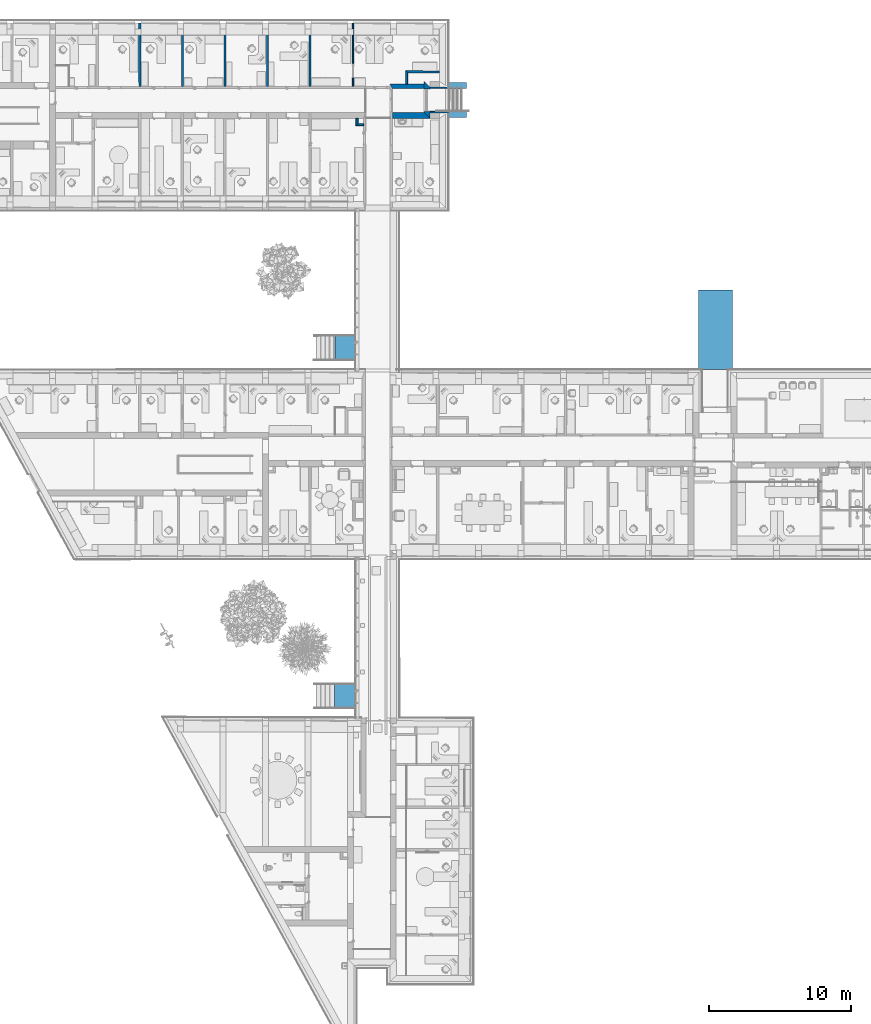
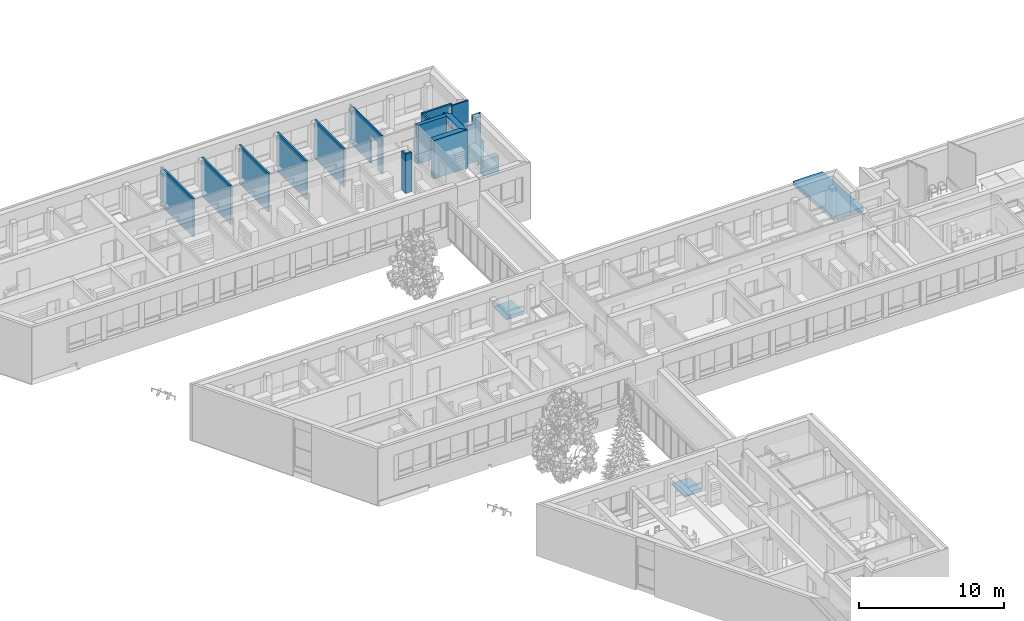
# One storey, part 32 of 194: 17 walls, 2 stairs, 1 ramp, 2 openings.
"""IFC2X3 building model written with IfcOpenShell, lengths in millimetres."""

from ifc_helpers import new_model, entity, si_unit, converted_unit, derived_unit, money_unit, direction, frame, origin_with_axes, origin_2d_with_axis, place, context, subcontext, project, spatial, polyline, rectangle, outline, extrude, boolean, faceted_brep, material, layer, layer_set, layer_usage, type_object, element, save


model = new_model("IFC2X3")

# Units and contexts
model_context = context("Model", 3, precision=1e-05, world=origin_with_axes(), true_north=direction((0.0, 1.0)))
body_context = subcontext(model_context, "Body", "Model", "MODEL_VIEW")
ifc_project = project(units=[si_unit("LENGTHUNIT", "METRE", prefix="MILLI"), si_unit("AREAUNIT", "SQUARE_METRE"), si_unit("VOLUMEUNIT", "CUBIC_METRE"), converted_unit("PLANEANGLEUNIT", "DEGREE", entity("IfcPlaneAngleMeasure", 0.0174532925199), si_unit("PLANEANGLEUNIT", "RADIAN"), dimensions=[0, 0, 0, 0, 0, 0, 0]), si_unit("SOLIDANGLEUNIT", "STERADIAN"), money_unit("EUR"), converted_unit("TIMEUNIT", "Year", entity("IfcTimeMeasure", 31556926.0), si_unit("TIMEUNIT", "SECOND"), dimensions=[0, 0, 1, 0, 0, 0, 0]), si_unit("MASSUNIT", "GRAM", prefix="KILO"), si_unit("THERMODYNAMICTEMPERATUREUNIT", "DEGREE_CELSIUS"), si_unit("LUMINOUSINTENSITYUNIT", "LUMEN"), si_unit("ENERGYUNIT", "JOULE", prefix="MEGA"), derived_unit("THERMALCONDUCTANCEUNIT", [(si_unit("POWERUNIT", "WATT"), 1), (si_unit("LENGTHUNIT", "METRE"), -1), (si_unit("THERMODYNAMICTEMPERATUREUNIT", "KELVIN"), -1)]), derived_unit("SPECIFICHEATCAPACITYUNIT", [(si_unit("ENERGYUNIT", "JOULE"), 1), (si_unit("MASSUNIT", "GRAM", prefix="KILO"), -1), (si_unit("THERMODYNAMICTEMPERATUREUNIT", "KELVIN"), -1)]), derived_unit("MASSDENSITYUNIT", [(si_unit("MASSUNIT", "GRAM", prefix="KILO"), 1), (si_unit("VOLUMEUNIT", "CUBIC_METRE"), -1)])], contexts=[model_context])

# Site, building, storey
site_placement = place(None, origin_with_axes())
site = spatial("IfcSite", under=ifc_project, at=site_placement, Name="Site", CompositionType="ELEMENT")
building_placement = place(site_placement, origin_with_axes())
building = spatial("IfcBuilding", under=site, at=building_placement, Name="Building", CompositionType="ELEMENT")
storey_placement = place(building_placement, frame((0.0, 0.0, 3000.0), z_axis=(0.0, 0.0, 1.0), x_axis=(1.0, 0.0, 0.0)))
storey = spatial("IfcBuildingStorey", under=building, at=storey_placement, Name="2 KORRUS", CompositionType="ELEMENT", Elevation=3000.0)

# Walls
ifc_material_1 = material(Name="Kivi -Ol.Olev Konstruktsioon")
ifc_layer_1 = layer(ifc_material_1, 150.0, ventilated="UNKNOWN")
ifc_layer_set_1 = layer_set([ifc_layer_1], Name="ol.olev ss 150")
ifc_layer_usage_1 = layer_usage(ifc_layer_set_1, "AXIS2", "NEGATIVE", 0.0)
wall_type_1 = type_object("IfcWallType", Name="SW - 022", PredefinedType="NOTDEFINED")
wall_1_placement = place(storey_placement, frame((22160.0036012, 71918.4645055, 0.0), z_axis=(0.0, 0.0, 1.0), x_axis=(0.000614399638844, -0.999999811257, 0.0)))
element("IfcWallStandardCase", 1, at=wall_1_placement, inside=storey, type_object=wall_type_1, material=ifc_layer_usage_1, Name="ol.olev ss 150", context=body_context, shape_type="SweptSolid", body=[
    extrude(outline(polyline([(0.0, -150.0), (4453.54102514, -150.0), (4453.6493087, -1.13686837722e-10), (0.0, 0.0), (0.0, -150.0)])), origin_with_axes(), (0.0, 0.0, 1.0), 3250.0),
])
ifc_layer_usage_2 = layer_usage(ifc_layer_set_1, "AXIS2", "NEGATIVE", 0.0)
wall_2_placement = place(storey_placement, frame((25161.1205532, 71919.0145998, 0.0), z_axis=(0.0, 0.0, 1.0), x_axis=(0.000614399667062, -0.999999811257, 0.0)))
element("IfcWallStandardCase", 2, at=wall_2_placement, inside=storey, type_object=wall_type_1, material=ifc_layer_usage_2, Name="ol.olev ss 150", context=body_context, shape_type="SweptSolid", body=[
    extrude(outline(polyline([(429.929419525, -150.0), (4454.41371149, -150.0), (4454.52199505, -1.13686837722e-10), (429.992970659, 0.0), (429.929419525, -150.0)])), origin_with_axes(), (0.0, 0.0, 1.0), 3250.0),
])
ifc_layer_usage_3 = layer_usage(ifc_layer_set_1, "AXIS2", "NEGATIVE", 0.0)
wall_3_placement = place(storey_placement, frame((28159.6228608, 71919.5867765, 0.0), z_axis=(0.0, 0.0, 1.0), x_axis=(0.0, -1.0, 0.0)))
element("IfcWallStandardCase", 3, at=wall_3_placement, inside=storey, type_object=wall_type_1, material=ifc_layer_usage_3, Name="ol.olev ss 150", context=body_context, shape_type="SweptSolid", body=[
    extrude(outline(polyline([(430.021834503, -150.0), (4455.39922396, -150.0), (4455.41534755, 0.0), (429.993225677, 0.0), (430.021834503, -150.0)])), origin_with_axes(), (0.0, 0.0, 1.0), 3250.0),
])
ifc_layer_usage_4 = layer_usage(ifc_layer_set_1, "AXIS2", "NEGATIVE", 0.0)
wall_4_placement = place(storey_placement, frame((31159.5359866, 71920.1589359, 0.0), z_axis=(0.0, 0.0, 1.0), x_axis=(0.000718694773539, -0.999999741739, 0.0)))
element("IfcWallStandardCase", 4, at=wall_4_placement, inside=storey, type_object=wall_type_1, material=ifc_layer_usage_4, Name="ol.olev ss 150", context=body_context, shape_type="SweptSolid", body=[
    extrude(outline(polyline([(429.91408191, -150.0), (4456.18753678, -150.0), (4456.31146462, -1.13686837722e-10), (429.993277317, 0.0), (429.91408191, -150.0)])), origin_with_axes(), (0.0, 0.0, 1.0), 3250.0),
])
ifc_layer_usage_5 = layer_usage(ifc_layer_set_1, "AXIS2", "NEGATIVE", 0.0)
wall_5_placement = place(storey_placement, frame((34159.5366936, 71920.731128, 0.0), z_axis=(0.0, 0.0, 1.0), x_axis=(0.000622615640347, -0.999999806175, 0.0)))
element("IfcWallStandardCase", 5, at=wall_5_placement, inside=storey, type_object=wall_type_1, material=ifc_layer_usage_5, Name="ol.olev ss 150", context=body_context, shape_type="SweptSolid", body=[
    extrude(outline(polyline([(429.928489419, -150.0), (4457.09627969, -150.0), (4457.20579565, 1.13686837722e-10), (429.99327295, 0.0), (429.928489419, -150.0)])), origin_with_axes(), (0.0, 0.0, 1.0), 3250.0),
])

# Wall, opening
ifc_layer_2 = layer(ifc_material_1, 100.0, ventilated="UNKNOWN")
ifc_layer_set_2 = layer_set([ifc_layer_2], Name="ol.olev ss 100")
ifc_layer_usage_6 = layer_usage(ifc_layer_set_2, "AXIS2", "NEGATIVE", 0.0)
wall_6_placement = place(storey_placement, frame((37159.4728509, 71921.3329731, 0.0), z_axis=(0.0, 0.0, 1.0), x_axis=(0.00061439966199, -0.999999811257, 0.0)))
wall_6 = element("IfcWallStandardCase", 6, at=wall_6_placement, inside=storey, type_object=wall_type_1, material=ifc_layer_usage_6, Name="ol.olev ss 100", context=body_context, shape_type="SweptSolid", body=[
    extrude(outline(polyline([(0.0, -100.0), (4458.05789024, -100.0), (4458.13007929, 0.0), (0.0, 0.0), (0.0, -100.0)])), origin_with_axes(), (0.0, 0.0, 1.0), 3250.0),
])
opening_1_placement = place(wall_6_placement, frame((3343.23962917, 0.0, 0.0), z_axis=(0.0, 0.0, 1.0), x_axis=(1.0, 0.0, 0.0)))
element("IfcOpeningElement", 7, at=opening_1_placement, cuts=wall_6, Name="Siseuks * Door 22", context=body_context, shape_type="SweptSolid", body=[
    extrude(rectangle(XDim=950.000000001, YDim=2300.0, at=origin_2d_with_axis()), frame((-1.81898940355e-09, 100.0, 1150.0), z_axis=(0.0, 1.0, 0.0), x_axis=(1.0, 0.0, 0.0)), (0.0, 0.0, -1.0), 300.0),
    extrude(rectangle(XDim=1024.0, YDim=2337.0, at=origin_2d_with_axis()), frame((-9.09494701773e-10, 0.0, 1168.5), z_axis=(0.0, 1.0, 0.0), x_axis=(1.0, 0.0, 0.0)), (0.0, 0.0, 1.0), 100.0),
    extrude(rectangle(XDim=1024.0, YDim=2337.0, at=origin_2d_with_axis()), frame((-9.09494701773e-10, -100.0, 1168.5), z_axis=(0.0, -1.0, 0.0), x_axis=(1.0, 0.0, 0.0)), (0.0, 0.0, 1.0), 100.0),
])

# Wall
ifc_layer_3 = layer(ifc_material_1, 300.0, ventilated="UNKNOWN")
ifc_layer_set_3 = layer_set([ifc_layer_3], Name="ol.olev ss 300")
ifc_layer_usage_7 = layer_usage(ifc_layer_set_3, "AXIS2", "NEGATIVE", 300.0)
wall_7_placement = place(storey_placement, frame((39733.2475145, 67315.4606554, 0.0), z_axis=(0.0, 0.0, 1.0), x_axis=(0.999999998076, 6.20341104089e-05, 0.0)))
element("IfcWallStandardCase", 8, at=wall_7_placement, inside=storey, type_object=wall_type_1, material=ifc_layer_usage_7, Name="ol.olev ss 300", context=body_context, shape_type="SweptSolid", body=[
    extrude(outline(polyline([(150.000000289, 0.0), (2390.48607599, -9.09494701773e-10), (2390.50468623, 300.0), (0.0186102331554, 299.999999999), (150.000000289, 0.0)])), origin_with_axes(), (0.0, 0.0, 1.0), 3250.0),
])

# Wall, opening
ifc_layer_4 = layer(ifc_material_1, 420.0, ventilated="UNKNOWN")
ifc_layer_set_4 = layer_set([ifc_layer_4], Name="ol.olev ss 420")
ifc_layer_usage_8 = layer_usage(ifc_layer_set_4, "AXIS2", "NEGATIVE", 0.0)
wall_8_placement = place(storey_placement, frame((42543.7335859, 67815.469464, 0.0), z_axis=(0.0, 0.0, 1.0), x_axis=(0.0, -1.0, 0.0)))
wall_8 = element("IfcWallStandardCase", 9, at=wall_8_placement, inside=storey, type_object=wall_type_1, material=ifc_layer_usage_8, Name="ol.olev ss 420", context=body_context, shape_type="SweptSolid", body=[
    extrude(outline(polyline([(0.258047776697, -420.0), (2185.44110816, -420.0), (2605.44110816, 0.0), (420.000079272, 0.0), (0.258047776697, -420.0)])), origin_with_axes(), (0.0, 0.0, 1.0), 3250.0),
])
opening_2_placement = place(wall_8_placement, frame((1320.00007927, 0.0, 0.0), z_axis=(0.0, 0.0, 1.0), x_axis=(1.0, 0.0, 0.0)))
element("IfcOpeningElement", 10, at=opening_2_placement, cuts=wall_8, Name="Välisuks * Double Door with Transom 22", context=body_context, shape_type="SweptSolid", body=[
    extrude(rectangle(XDim=1600.0, YDim=3200.0, at=origin_2d_with_axis()), frame((0.0, -200.0, 1600.0), z_axis=(0.0, -1.0, 0.0), x_axis=(-1.0, 0.0, 0.0)), (0.0, 0.0, 1.0), 640.0),
    extrude(rectangle(XDim=1600.0, YDim=3200.0, at=origin_2d_with_axis()), frame((0.0, -200.0, 1600.0), z_axis=(0.0, 1.0, 0.0), x_axis=(-1.0, 0.0, 0.0)), (0.0, 0.0, 1.0), 620.0),
    extrude(rectangle(XDim=1674.0, YDim=3237.0, at=origin_2d_with_axis()), frame((0.0, -420.0, 1618.5), z_axis=(0.0, -1.0, 0.0), x_axis=(-1.0, 0.0, 0.0)), (0.0, 0.0, 1.0), 620.0),
    extrude(rectangle(XDim=1674.0, YDim=3237.0, at=origin_2d_with_axis()), frame((0.0, 1.13686837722e-10, 1618.5), z_axis=(0.0, 1.0, 0.0), x_axis=(-1.0, 0.0, 0.0)), (0.0, 0.0, 1.0), 620.0),
])

# Walls
ifc_layer_usage_9 = layer_usage(ifc_layer_set_4, "AXIS2", "POSITIVE", -420.0)
wall_9_placement = place(storey_placement, frame((39733.2475145, 65630.0283559, 0.0), z_axis=(0.0, 0.0, 1.0), x_axis=(1.0, 0.0, 0.0)))
element("IfcWallStandardCase", 11, at=wall_9_placement, inside=storey, type_object=wall_type_1, material=ifc_layer_usage_9, Name="ol.olev ss 420", context=body_context, shape_type="SweptSolid", body=[
    extrude(outline(polyline([(150.0, -420.0), (2810.48607139, -420.0), (2390.48607139, 0.0), (150.0, 0.0), (150.0, -420.0)])), origin_with_axes(), (0.0, 0.0, 1.0), 3250.0),
])
ifc_layer_usage_10 = layer_usage(ifc_layer_set_4, "AXIS2", "POSITIVE", -420.0)
wall_type_2 = type_object("IfcWallType", Name="SW - 032", PredefinedType="NOTDEFINED")
wall_10_placement = place(storey_placement, frame((43843.2152932, 65695.4693812, -1184.70004824), z_axis=(0.0, 0.0, 1.0), x_axis=(0.999999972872, -0.00023292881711, 0.0)))
element("IfcWallStandardCase", 12, at=wall_10_placement, inside=storey, type_object=wall_type_2, material=ifc_layer_usage_10, Name="ol.olev ss 420", context=body_context, shape_type="SweptSolid", body=[
    extrude(outline(polyline([(0.0, -419.999999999), (1260.0, -419.999999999), (1260.0, 0.0), (0.0, 0.0), (0.0, -419.999999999)])), origin_with_axes(), (0.0, 0.0, 1.0), 1304.70004824),
])
ifc_layer_usage_11 = layer_usage(ifc_layer_set_4, "AXIS2", "NEGATIVE", 420.0)
wall_11_placement = place(storey_placement, frame((43843.2729182, 67315.7155145, -1184.70004824), z_axis=(0.0, 0.0, 1.0), x_axis=(0.999999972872, -0.000232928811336, 0.0)))
element("IfcWallStandardCase", 13, at=wall_11_placement, inside=storey, type_object=wall_type_2, material=ifc_layer_usage_11, Name="ol.olev ss 420", context=body_context, shape_type="SweptSolid", body=[
    extrude(outline(polyline([(0.0, 0.0), (1260.0, 9.09494701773e-10), (1260.0, 420.0), (1.13686837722e-10, 420.000000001), (0.0, 0.0)])), origin_with_axes(), (0.0, 0.0, 1.0), 1304.70004824),
])
ifc_material_2 = material(Name="Kivi -  Uus Konstruktsioon")
ifc_layer_5 = layer(ifc_material_2, 150.0, ventilated="UNKNOWN")
ifc_layer_set_5 = layer_set([ifc_layer_5], Name="uus ss 150")
ifc_layer_usage_12 = layer_usage(ifc_layer_set_5, "AXIS2", "NEGATIVE", 0.0)
wall_type_3 = type_object("IfcWallType", Name="SS-1", PredefinedType="NOTDEFINED")
wall_12_placement = place(storey_placement, frame((40815.2469016, 68566.9582376, 0.0), z_axis=(0.0, 0.0, 1.0), x_axis=(0.999999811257, -0.000614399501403, 0.0)))
element("IfcWallStandardCase", 14, at=wall_12_placement, inside=storey, type_object=wall_type_3, material=ifc_layer_usage_12, Name="sahti sein", context=body_context, shape_type="SweptSolid", body=[
    extrude(outline(polyline([(150.184433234, -150.000000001), (2377.65657362, -150.000000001), (2377.50039759, 0.0), (0.0, 0.0), (150.184433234, -150.000000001)])), origin_with_axes(), (0.0, 0.0, 1.0), 3250.0),
])
ifc_layer_usage_13 = layer_usage(ifc_layer_set_5, "AXIS2", "POSITIVE", 0.0)
wall_13_placement = place(storey_placement, frame((40815.2469016, 68566.9582376, 0.0), z_axis=(0.0, 0.0, 1.0), x_axis=(0.000614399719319, -0.999999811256, 0.0)))
element("IfcWallStandardCase", 15, at=wall_13_placement, inside=storey, type_object=wall_type_3, material=ifc_layer_usage_13, Name="sahti sein", context=body_context, shape_type="SweptSolid", body=[
    extrude(outline(polyline([(0.0, 0.0), (951.43060402, -1.13686837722e-10), (951.513458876, 150.0), (150.184433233, 150.0), (0.0, 0.0)])), origin_with_axes(), (0.0, 0.0, 1.0), 3250.0),
])
ifc_layer_usage_14 = layer_usage(ifc_layer_set_5, "AXIS2", "NEGATIVE", 0.0)
wall_14_placement = place(storey_placement, frame((37464.0924701, 64846.9927824, 0.0), z_axis=(0.0, 0.0, 1.0), x_axis=(0.999999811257, 0.000614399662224, 0.0)))
element("IfcWallStandardCase", 16, at=wall_14_placement, inside=storey, type_object=wall_type_3, material=ifc_layer_usage_14, Name="sahti sein", context=body_context, shape_type="SweptSolid", body=[
    extrude(outline(polyline([(-150.092188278, -150.000000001), (387.137255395, -150.0), (387.137255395, 0.0), (0.0, 0.0), (-150.092188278, -150.000000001)])), origin_with_axes(), (0.0, 0.0, 1.0), 3294.8304041),
])
ifc_layer_usage_15 = layer_usage(ifc_layer_set_5, "AXIS2", "NEGATIVE", 0.0)
wall_15_placement = place(storey_placement, frame((37464.0924701, 65630.0283559, 0.0), z_axis=(0.0, 0.0, 1.0), x_axis=(0.0, -1.0, 0.0)))
element("IfcWallStandardCase", 17, at=wall_15_placement, inside=storey, type_object=wall_type_3, material=ifc_layer_usage_15, Name="sahti sein", context=body_context, shape_type="SweptSolid", body=[
    extrude(outline(polyline([(420.0, -150.0), (933.127761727, -150.0), (783.035573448, 0.0), (420.0, 0.0), (420.0, -150.0)])), origin_with_axes(), (0.0, 0.0, 1.0), 3294.8304041),
])
ifc_material_3 = material(Name="Soojustus - Plastik Kõva")
ifc_layer_6 = layer(ifc_material_3, 100.0, ventilated="UNKNOWN")
ifc_layer_set_6 = layer_set([ifc_layer_6], Name="TR4 soojusus")
ifc_layer_usage_16 = layer_usage(ifc_layer_set_6, "AXIS2", "POSITIVE", 0.0)
wall_type_4 = type_object("IfcWallType", Name="TR4 soojusus", PredefinedType="NOTDEFINED")
wall_16_placement = place(storey_placement, frame((42543.7400045, 67315.6350018, -752.307256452), z_axis=(0.0, 0.0, 1.0), x_axis=(0.999999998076, 6.2034111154e-05, 0.0)))
element("IfcWallStandardCase", 18, at=wall_16_placement, inside=storey, type_object=wall_type_4, material=ifc_layer_usage_16, Name="TR4 soojusus", context=body_context, shape_type="SweptSolid", body=[
    extrude(outline(polyline([(-0.00641860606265, 0.0), (1299.53291617, 9.09494701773e-10), (1299.53291617, 100.000000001), (-0.000215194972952, 100.0), (-0.00641860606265, 0.0)])), origin_with_axes(), (0.0, 0.0, 1.0), 4732.30725645),
])
wall_17_placement = place(storey_placement, frame((42543.7335859, 65695.4693848, -398.361137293), z_axis=(0.0, 0.0, 1.0), x_axis=(1.0, 0.0, 0.0)))
element("IfcWall", 19, at=wall_17_placement, inside=storey, type_object=wall_type_4, material=ifc_material_3, Name="TR4 soojusus", context=body_context, shape_type="CSG", body=[
    boolean("DIFFERENCE", extrude(outline(polyline([(-420.0, -100.0), (1299.46645225, -100.0), (1299.46645225, 0.0), (-420.0, 0.0), (-420.0, -100.0)])), origin_with_axes(), (0.0, 0.0, 1.0), 4378.36113729), faceted_brep([(0.0, 0.0, 3648.36113729), (0.0, 0.0, 398.361137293), (1077.43842159, 0.0, 398.361137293), (1077.43842159, 0.0, 0.0), (-420.0, 0.0, 0.0), (-420.0, 0.0, 4378.36113729), (629.847690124, 0.0, 4378.36113729), (629.847690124, 0.0, 3913.36113729), (629.886991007, 0.0, 3913.36113729), (629.886991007, 0.0, 3648.36113729), (0.0, -100.0, 3648.36113729), (0.0, -100.0, 398.361137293), (1077.43613828, -100.0, 398.361137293), (1077.43613828, -100.0, 0.0), (-420.0, -100.0, 0.0), (-420.0, -100.0, 4378.36113729), (629.84573658, -100.0, 4378.36113729), (629.84573658, -100.0, 3913.36113729), (629.888927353, -100.0, 3913.36113729), (629.888927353, -100.0, 3648.36113729)], [[[0, 1, 2, 3, 4, 5, 6, 7, 8, 9]], [[1, 0, 10, 11]], [[2, 1, 11, 12]], [[3, 2, 12, 13]], [[3, 13, 14, 4]], [[5, 4, 14, 15]], [[16, 6, 5, 15]], [[7, 6, 16, 17]], [[8, 7, 17, 18]], [[9, 8, 18, 19]], [[0, 9, 19, 10]], [[17, 16, 15, 14, 13, 12, 11, 10, 19, 18]]])),
])

# Stairs
ifc_material_4 = material(Name="Betoon - Ol.Olev konstruktsioon")
for number, where, z_axis, x_axis in (
    (20, (35827.5062773, 48155.0189164, 0.0), (0.0, 0.0, 1.0), (1.0, 0.0, 0.0)),
    (21, (35818.8840677, 23598.5333384, 0.0), (0.0, 0.0, 1.0), (1.0, 0.0, 0.0)),
):
    element("IfcStair", number, at=place(storey_placement, frame(where, z_axis=z_axis, x_axis=x_axis)), inside=storey, material=ifc_material_4, Name="Betoon - Ol.Olev konstruktsioon", ShapeType="NOTDEFINED", context=body_context, shape_type="SweptSolid", body=[
        extrude(outline(polyline([(0.0, 0.0), (1456.67239826, 0.0), (1456.67239826, 1801.05348304), (0.0, 1801.05348304), (0.0, 0.0)])), frame((0.0, 0.0, -100.0), z_axis=(0.0, 0.0, 1.0), x_axis=(1.0, 0.0, 0.0)), (0.0, 0.0, 1.0), 100.0),
    ])

# Ramp
ramp_placement = place(storey_placement, frame((61339.0414401, 53123.9393127, -742.557631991), z_axis=(0.0, 0.0, 1.0), x_axis=(1.0, 0.0, 0.0)))
element("IfcRamp", 22, at=ramp_placement, inside=storey, material=ifc_material_2, Name="Pandus 3", ShapeType="NOTDEFINED", context=body_context, shape_type="SweptSolid", body=[
    extrude(outline(polyline([(136.933368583, -24.4743841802), (136.933368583, -5639.76636553), (2500.17906009, -5639.76636553), (2500.17906009, -24.4743841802), (136.933368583, -24.4743841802)])), frame((0.0, 0.0, 0.0), z_axis=(0.0, 0.0697564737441, 0.99756405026), x_axis=(1.0, 0.0, 0.0)), (0.0, 0.0, 1.0), 350.0),
])

save(model, "model.ifc")
